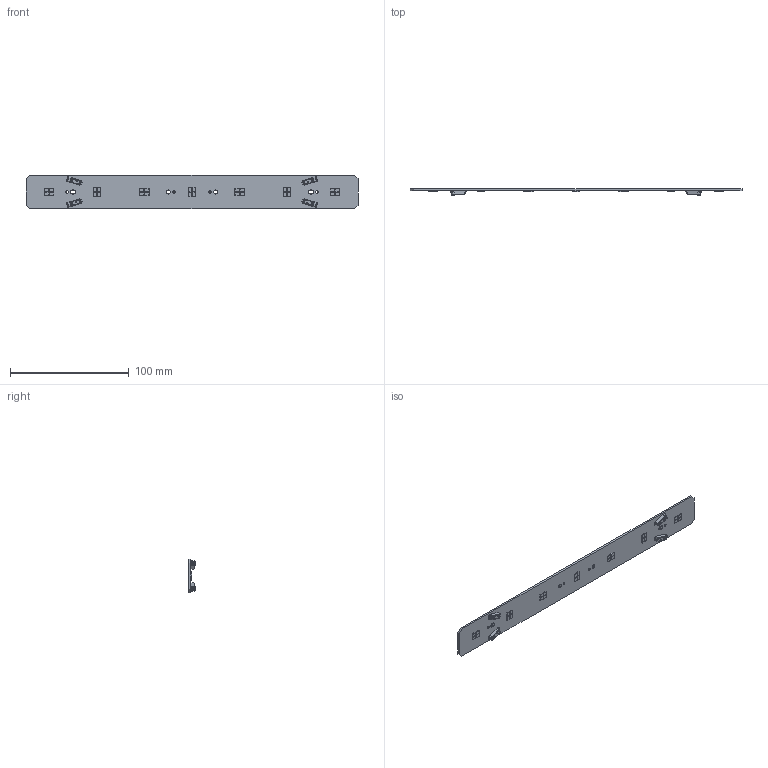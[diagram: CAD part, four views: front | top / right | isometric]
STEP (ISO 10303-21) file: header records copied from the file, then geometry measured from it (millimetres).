
FILE_DESCRIPTION(/* description */ ('Unknown'),/* implementation_level */ '2;1');
FILE_NAME(/* name */ 'LinLED 280x28mm 1100lm 42V G1 (DAISY 7x1) sh-000 2019-07-18',/* time_stamp */ '2019-07-18T10:28:15+02:00',/* author */ ('Unknown'),/* organization */ ('Unknown'),/* preprocessor_version */ 'ST-DEVELOPER v16.7',/* originating_system */ 'DEX',/* authorisation */ $);
FILE_SCHEMA (('AUTOMOTIVE_DESIGN {1 0 10303 214 3 1 1}'));
Products named in the file (1): LinLED 280x28mm 1100lm 42V G1 (DAISY 7x1) sh-000 2019-07-18
Bounding box: 279 x 5.05 x 28 mm (x, y, z)
Volume: 13030.8 mm3; surface area: 17617.8 mm2
Topology: 1 solids, 1 shells, 1422 faces, 3684 edges, 2320 vertices
Faces by surface type: plane 838, cylinder 264, bspline 208, cone 60, sphere 32, torus 20
Full cylindrical faces by diameter (mm): 2 x2, 3.4 x2
Entity records: 58402 total; most frequent: CARTESIAN_POINT 15923, ORIENTED_EDGE 7256, DIRECTION 5786, EDGE_CURVE 3628, LINE 2388, VECTOR 2388, VERTEX_POINT 2304, AXIS2_PLACEMENT_3D 1699
